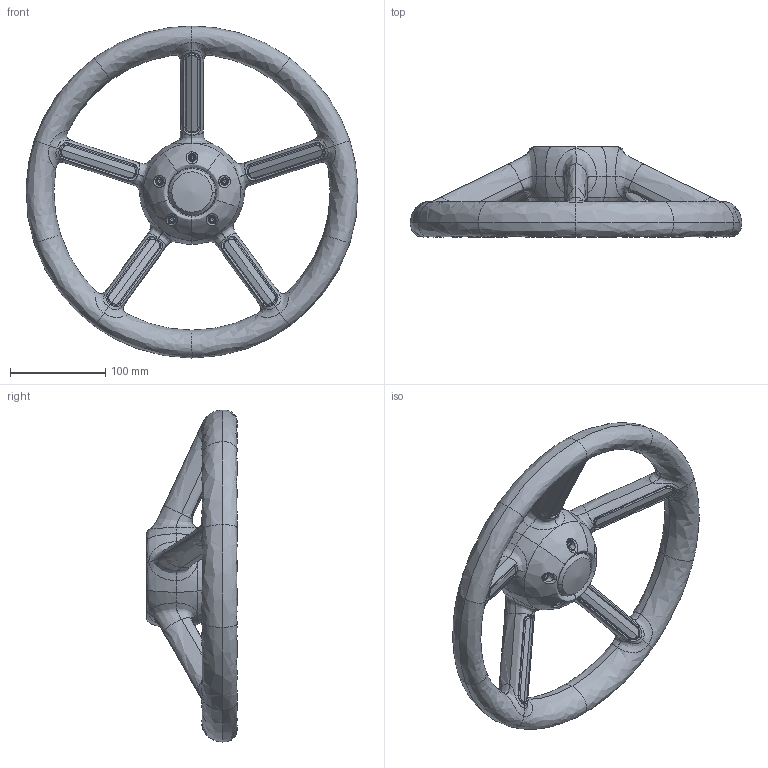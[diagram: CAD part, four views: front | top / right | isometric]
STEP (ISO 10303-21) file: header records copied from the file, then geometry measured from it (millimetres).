
FILE_DESCRIPTION(/* description */ (''),/* implementation_level */ '2;1');
FILE_NAME(/* name */ '3D per configuratore - V56',/* time_stamp */ '2021-02-09T10:41:36+01:00',/* author */ (''),/* organization */ (''),/* preprocessor_version */ 'ST-DEVELOPER v10',/* originating_system */ '',/* authorisation */ '');
FILE_SCHEMA (('AUTOMOTIVE_DESIGN'));
Length unit declared in the file: millimetre
Products named in the file (1): 1
Bounding box: 349.23 x 94.85 x 349.35 mm (x, y, z)
Surface area: 201340.2 mm2 (no closed solid volume)
Topology: 0 solids, 12 shells, 441 faces, 1138 edges, 682 vertices
Faces by surface type: bspline 345, plane 96
Entity records: 27118 total; most frequent: CARTESIAN_POINT 20494, ORIENTED_EDGE 2101, EDGE_CURVE 1128, B_SPLINE_CURVE_WITH_KNOTS 805, VERTEX_POINT 682, EDGE_LOOP 451, ADVANCED_FACE 441, FACE_OUTER_BOUND 441
